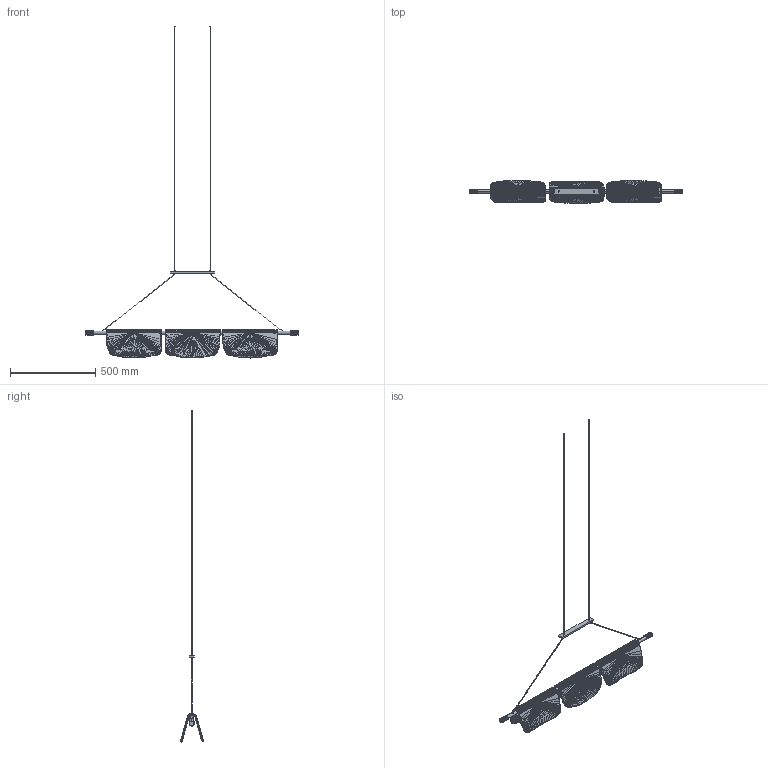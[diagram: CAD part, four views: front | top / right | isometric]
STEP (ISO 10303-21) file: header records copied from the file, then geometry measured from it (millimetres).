
FILE_DESCRIPTION (( 'STEP AP214' ), '1' );
FILE_NAME ('C1357_3.STEP', '2025-10-21T11:11:31', ( '' ), ( '' ), 'SwSTEP 2.0', 'SolidWorks 2018', '' );
FILE_SCHEMA (( 'AUTOMOTIVE_DESIGN' ));
Length unit declared in the file: millimetre
Products named in the file (6): tapon.STEP; pantalla pequeña1.STEP; Ar5_1.3.igs.STEP; Ar5_3.2.STEP; Enganche grande.STEP; C1357_3
Assembly tree (8 placements, depth 3):
  C1357_3
    Ar5_3.2.STEP
      Ar5_1.3.igs.STEP
      pantalla pequeña1.STEP  x3
      Enganche grande.STEP
      tapon.STEP  x2
Bounding box: 1249.58 x 134.68 x 1945.79 mm (x, y, z)
Volume: 3849739.1 mm3; surface area: 933375.1 mm2
Topology: 32 solids, 32 shells, 34787 faces, 52734 edges, 17950 vertices
Faces by surface type: plane 34215, cylinder 220, torus 158, bspline 118, sphere 64, cone 12
Entity records: 240160 total; most frequent: CARTESIAN_POINT 44058, DIRECTION 41301, ORIENTED_EDGE 35874, EDGE_CURVE 17937, VECTOR 17241, LINE 17241, AXIS2_PLACEMENT_3D 12030, EDGE_LOOP 11790
